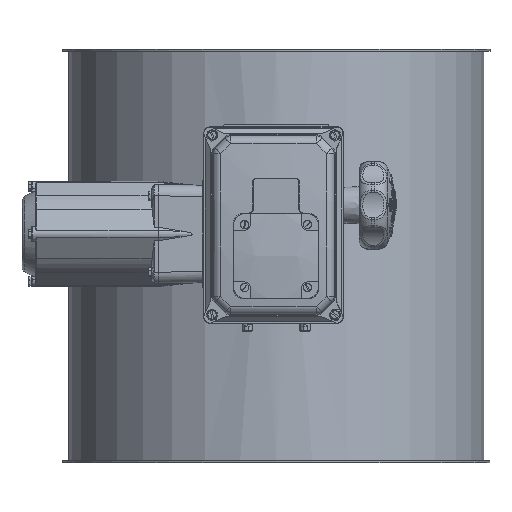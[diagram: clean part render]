
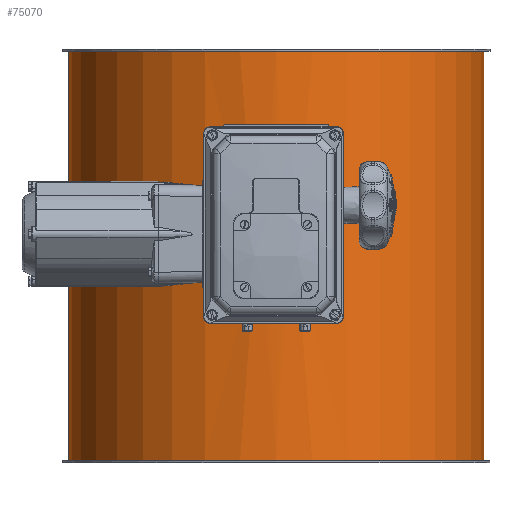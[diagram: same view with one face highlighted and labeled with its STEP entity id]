
A CAD part, left-side view. The second image highlights one B-rep face of the part: STEP entity #75070.
In plain terms, the highlighted cylindrical face has radius 201 mm (diameter 402 mm), a full revolution.
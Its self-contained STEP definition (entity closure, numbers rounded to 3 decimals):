
#74734=CARTESIAN_POINT('',(-200.002,20.0,200.));
#74735=VERTEX_POINT('',#74734);
#74736=CARTESIAN_POINT('',(-200.002,20.0,200.));
#74737=CARTESIAN_POINT('',(-200.002,20.0,201.257));
#74738=CARTESIAN_POINT('',(-200.015,19.88,202.556));
#74739=CARTESIAN_POINT('',(-200.064,19.373,205.14));
#74740=CARTESIAN_POINT('',(-200.102,18.987,206.424));
#74741=CARTESIAN_POINT('',(-200.196,17.966,208.888));
#74742=CARTESIAN_POINT('',(-200.253,17.331,210.069));
#74743=CARTESIAN_POINT('',(-200.374,15.862,212.252));
#74744=CARTESIAN_POINT('',(-200.439,15.03,213.255));
#74745=CARTESIAN_POINT('',(-200.564,13.255,215.03));
#74746=CARTESIAN_POINT('',(-200.629,12.252,215.862));
#74747=CARTESIAN_POINT('',(-200.751,10.069,217.331));
#74748=CARTESIAN_POINT('',(-200.807,8.888,217.966));
#74749=CARTESIAN_POINT('',(-200.901,6.424,218.987));
#74750=CARTESIAN_POINT('',(-200.938,5.14,219.373));
#74751=CARTESIAN_POINT('',(-200.988,2.556,219.88));
#74752=CARTESIAN_POINT('',(-201.0,1.257,220.0));
#74753=CARTESIAN_POINT('',(-201.0,-1.257,220.0));
#74754=CARTESIAN_POINT('',(-200.988,-2.556,219.88));
#74755=CARTESIAN_POINT('',(-200.938,-5.14,219.373));
#74756=CARTESIAN_POINT('',(-200.901,-6.424,218.987));
#74757=CARTESIAN_POINT('',(-200.807,-8.888,217.966));
#74758=CARTESIAN_POINT('',(-200.751,-10.069,217.331));
#74759=CARTESIAN_POINT('',(-200.629,-12.252,215.862));
#74760=CARTESIAN_POINT('',(-200.564,-13.255,215.03));
#74761=CARTESIAN_POINT('',(-200.439,-15.03,213.255));
#74762=CARTESIAN_POINT('',(-200.374,-15.862,212.252));
#74763=CARTESIAN_POINT('',(-200.253,-17.331,210.069));
#74764=CARTESIAN_POINT('',(-200.196,-17.966,208.888));
#74765=CARTESIAN_POINT('',(-200.102,-18.987,206.424));
#74766=CARTESIAN_POINT('',(-200.064,-19.373,205.14));
#74767=CARTESIAN_POINT('',(-200.015,-19.88,202.556));
#74768=CARTESIAN_POINT('',(-200.002,-20.0,201.257));
#74769=CARTESIAN_POINT('',(-200.002,-20.0,198.743));
#74770=CARTESIAN_POINT('',(-200.015,-19.88,197.444));
#74771=CARTESIAN_POINT('',(-200.064,-19.373,194.86));
#74772=CARTESIAN_POINT('',(-200.102,-18.987,193.576));
#74773=CARTESIAN_POINT('',(-200.196,-17.966,191.112));
#74774=CARTESIAN_POINT('',(-200.253,-17.331,189.931));
#74775=CARTESIAN_POINT('',(-200.374,-15.862,187.748));
#74776=CARTESIAN_POINT('',(-200.439,-15.03,186.745));
#74777=CARTESIAN_POINT('',(-200.564,-13.255,184.97));
#74778=CARTESIAN_POINT('',(-200.629,-12.252,184.138));
#74779=CARTESIAN_POINT('',(-200.751,-10.069,182.669));
#74780=CARTESIAN_POINT('',(-200.807,-8.888,182.034));
#74781=CARTESIAN_POINT('',(-200.901,-6.424,181.013));
#74782=CARTESIAN_POINT('',(-200.938,-5.14,180.627));
#74783=CARTESIAN_POINT('',(-200.988,-2.556,180.12));
#74784=CARTESIAN_POINT('',(-201.0,-1.257,180.0));
#74785=CARTESIAN_POINT('',(-201.0,1.257,180.0));
#74786=CARTESIAN_POINT('',(-200.988,2.556,180.12));
#74787=CARTESIAN_POINT('',(-200.938,5.14,180.627));
#74788=CARTESIAN_POINT('',(-200.901,6.424,181.013));
#74789=CARTESIAN_POINT('',(-200.807,8.888,182.034));
#74790=CARTESIAN_POINT('',(-200.751,10.069,182.669));
#74791=CARTESIAN_POINT('',(-200.629,12.252,184.138));
#74792=CARTESIAN_POINT('',(-200.564,13.255,184.97));
#74793=CARTESIAN_POINT('',(-200.439,15.03,186.745));
#74794=CARTESIAN_POINT('',(-200.374,15.862,187.748));
#74795=CARTESIAN_POINT('',(-200.253,17.331,189.931));
#74796=CARTESIAN_POINT('',(-200.196,17.966,191.112));
#74797=CARTESIAN_POINT('',(-200.102,18.987,193.576));
#74798=CARTESIAN_POINT('',(-200.064,19.373,194.86));
#74799=CARTESIAN_POINT('',(-200.015,19.88,197.444));
#74800=CARTESIAN_POINT('',(-200.002,20.,198.743));
#74801=CARTESIAN_POINT('',(-200.002,20.,200.));
#74802=B_SPLINE_CURVE_WITH_KNOTS('',3,(#74736,#74737,#74738,#74739,#74740,#74741,#74742,#74743,#74744,#74745,#74746,#74747,#74748,#74749,#74750,#74751,#74752,#74753,#74754,#74755,#74756,#74757,#74758,#74759,#74760,#74761,#74762,#74763,#74764,#74765,#74766,#74767,#74768,#74769,#74770,#74771,#74772,#74773,#74774,#74775,#74776,#74777,#74778,#74779,#74780,#74781,#74782,#74783,#74784,#74785,#74786,#74787,#74788,#74789,#74790,#74791,#74792,#74793,#74794,#74795,#74796,#74797,#74798,#74799,#74800,#74801),.UNSPECIFIED.,.T.,.U.,(4,2,2,2,2,2,2,2,2,2,2,2,2,2,2,2,2,2,2,2,2,2,2,2,2,2,2,2,2,2,2,2,4),(0.0,0.377,0.754,1.131,1.508,1.885,2.262,2.639,3.016,3.393,3.77,4.146,4.523,4.9,5.277,5.654,6.031,6.408,6.785,7.162,7.539,7.916,8.293,8.67,9.047,9.424,9.801,10.178,10.555,10.932,11.309,11.686,12.063),.UNSPECIFIED.);
#74803=EDGE_CURVE('',#74735,#74735,#74802,.T.);
#74998=CARTESIAN_POINT('',(200.093,19.073,200.0));
#74999=VERTEX_POINT('',#74998);
#75009=CARTESIAN_POINT('',(200.093,19.073,200.));
#75010=CARTESIAN_POINT('',(200.093,19.073,200.002));
#75011=CARTESIAN_POINT('',(200.093,19.073,200.004));
#75012=CARTESIAN_POINT('',(200.093,19.073,200.006));
#75013=CARTESIAN_POINT('',(200.093,19.072,202.909));
#75014=CARTESIAN_POINT('',(200.19,18.113,207.249));
#75015=CARTESIAN_POINT('',(200.441,15.057,212.232));
#75016=CARTESIAN_POINT('',(200.72,11.013,216.391));
#75017=CARTESIAN_POINT('',(201.012,4.425,219.651));
#75018=CARTESIAN_POINT('',(201.017,-5.353,219.677));
#75019=CARTESIAN_POINT('',(200.602,-13.105,215.113));
#75020=CARTESIAN_POINT('',(200.249,-17.424,208.609));
#75021=CARTESIAN_POINT('',(200.028,-19.728,201.091));
#75022=CARTESIAN_POINT('',(200.17,-18.389,192.032));
#75023=CARTESIAN_POINT('',(200.663,-12.311,184.25));
#75024=CARTESIAN_POINT('',(201.013,-4.399,180.34));
#75025=CARTESIAN_POINT('',(201.014,4.383,180.34));
#75026=CARTESIAN_POINT('',(200.663,12.293,184.226));
#75027=CARTESIAN_POINT('',(200.297,16.858,190.087));
#75028=CARTESIAN_POINT('',(200.125,18.747,195.613));
#75029=CARTESIAN_POINT('',(200.093,19.073,198.551));
#75030=CARTESIAN_POINT('',(200.093,19.073,200.));
#75031=B_SPLINE_CURVE_WITH_KNOTS('',3,(#75009,#75010,#75011,#75012,#75013,#75014,#75015,#75016,#75017,#75018,#75019,#75020,#75021,#75022,#75023,#75024,#75025,#75026,#75027,#75028,#75029,#75030),.UNSPECIFIED.,.T.,.U.,(4,3,1,1,1,1,1,1,1,1,1,1,1,1,1,1,1,4),(-9.045,-9.044,-8.398,-8.075,-7.752,-7.106,-6.46,-5.599,-5.168,-4.737,-3.876,-3.23,-2.584,-1.938,-1.292,-0.646,-0.323,0.),.UNSPECIFIED.);
#75032=EDGE_CURVE('',#74999,#74999,#75031,.T.);
#75037=CARTESIAN_POINT('',(0.0,0.0,0.0));
#75038=DIRECTION('',(0.0,0.0,1.0));
#75039=DIRECTION('',(-1.0,0.0,0.0));
#75040=AXIS2_PLACEMENT_3D('',#75037,#75038,#75039);
#75041=CYLINDRICAL_SURFACE('',#75040,201.0);
#75042=CARTESIAN_POINT('',(201.0,0.,398.0));
#75043=VERTEX_POINT('',#75042);
#75044=CARTESIAN_POINT('',(0.0,0.0,398.0));
#75045=DIRECTION('',(0.0,0.0,-1.0));
#75046=DIRECTION('',(-1.0,0.0,0.0));
#75047=AXIS2_PLACEMENT_3D('',#75044,#75045,#75046);
#75048=CIRCLE('',#75047,201.0);
#75049=EDGE_CURVE('',#75043,#75043,#75048,.T.);
#75050=ORIENTED_EDGE('',*,*,#75049,.T.);
#75051=EDGE_LOOP('',(#75050));
#75052=FACE_OUTER_BOUND('',#75051,.T.);
#75053=ORIENTED_EDGE('',*,*,#74803,.T.);
#75054=EDGE_LOOP('',(#75053));
#75055=FACE_BOUND('',#75054,.T.);
#75056=CARTESIAN_POINT('',(-201.0,0.,2.0));
#75057=VERTEX_POINT('',#75056);
#75058=CARTESIAN_POINT('',(0.0,0.0,2.0));
#75059=DIRECTION('',(0.0,0.0,1.0));
#75060=DIRECTION('',(-1.0,0.0,0.0));
#75061=AXIS2_PLACEMENT_3D('',#75058,#75059,#75060);
#75062=CIRCLE('',#75061,201.0);
#75063=EDGE_CURVE('',#75057,#75057,#75062,.T.);
#75064=ORIENTED_EDGE('',*,*,#75063,.T.);
#75065=EDGE_LOOP('',(#75064));
#75066=FACE_BOUND('',#75065,.T.);
#75067=ORIENTED_EDGE('',*,*,#75032,.F.);
#75068=EDGE_LOOP('',(#75067));
#75069=FACE_BOUND('',#75068,.T.);
#75070=ADVANCED_FACE('',(#75052,#75055,#75066,#75069),#75041,.T.);
